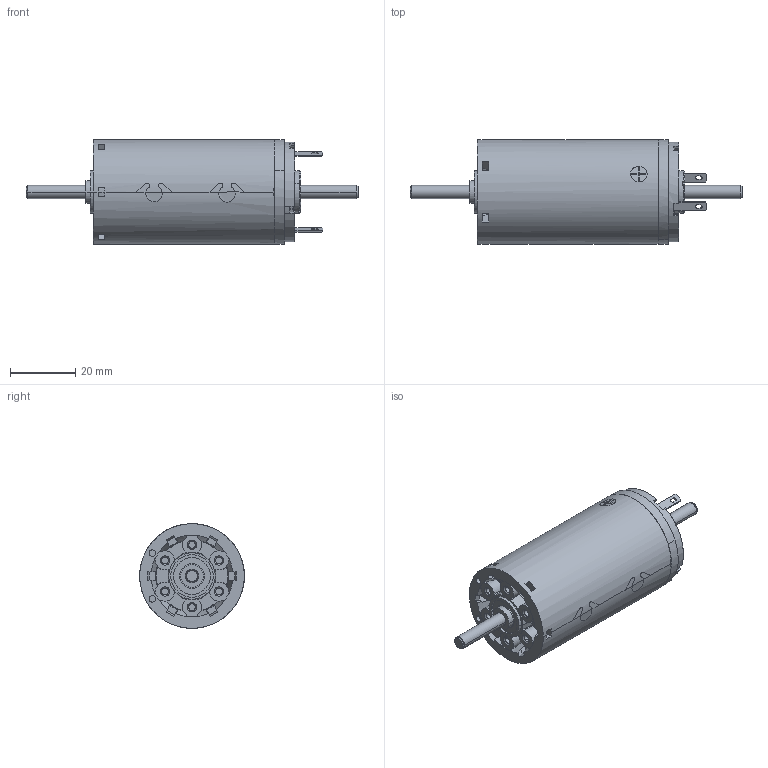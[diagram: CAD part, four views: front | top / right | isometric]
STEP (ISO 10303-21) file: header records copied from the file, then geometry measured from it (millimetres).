
FILE_DESCRIPTION((''),'2;1');
FILE_NAME('236651_AMAX32_GB_15W_KL_2WE','2016-10-14T',('mmagvisi'),(''),'CREO PARAMETRIC BY PTC INC, 2016050','CREO PARAMETRIC BY PTC INC, 2016050','');
FILE_SCHEMA(('CONFIG_CONTROL_DESIGN'));
Length unit declared in the file: millimetre
Products named in the file (1): 236651_AMAX32_GB_15W_KL_2WE
Bounding box: 101.4 x 32 x 32 mm (x, y, z)
Volume: 48271.9 mm3; surface area: 10862.7 mm2
Topology: 1 solids, 1 shells, 405 faces, 1097 edges, 720 vertices
Faces by surface type: cylinder 191, plane 151, cone 52, torus 9, bspline 2
Entity records: 20066 total; most frequent: CARTESIAN_POINT 3033, DIRECTION 2291, ORIENTED_EDGE 2194, PRESENTATION_STYLE_ASSIGNMENT 1472, STYLED_ITEM 1099, CURVE_STYLE 1097, EDGE_CURVE 1097, AXIS2_PLACEMENT_3D 937
